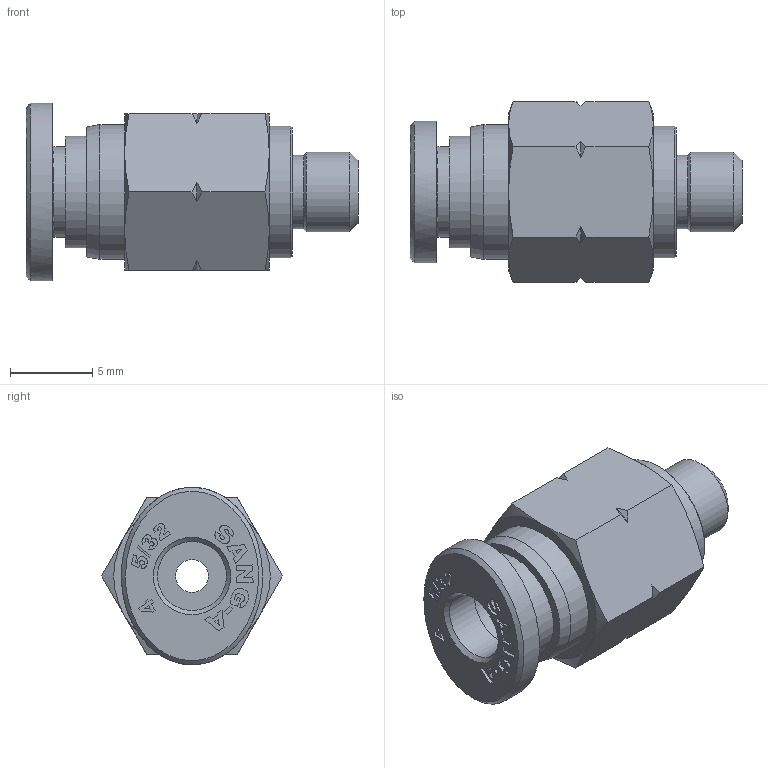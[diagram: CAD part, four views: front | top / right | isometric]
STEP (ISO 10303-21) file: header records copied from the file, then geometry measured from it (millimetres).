
FILE_DESCRIPTION((''),'2;1');
FILE_NAME('C:\Users\user0117\Desktop\김진일\홈페이지\5_32\Internet\GPC 5_32-U10U.stp','2019-09-18T08:09:32',('user0117'),(''),'Autodesk Inventor 2013','Autodesk Inventor 2013','');
FILE_SCHEMA(('AUTOMOTIVE_DESIGN { 1 0 10303 214 1 1 1 1 }'));
Length unit declared in the file: millimetre
Products named in the file (5): GPC 5_32-U10U; GPC BODY 5_32-U10U(BRASS); G-COLLAR 5-32C; COLLAR G04C; SLEEVE G04
Assembly tree (4 placements, depth 3):
  GPC 5_32-U10U
    GPC BODY 5_32-U10U(BRASS)
    G-COLLAR 5-32C
      COLLAR G04C
      SLEEVE G04
Bounding box: 20.2 x 11 x 10.8 mm (x, y, z)
Volume: 899.1 mm3; surface area: 1084.2 mm2
Topology: 3 solids, 3 shells, 210 faces, 535 edges, 351 vertices
Faces by surface type: plane 108, bspline 59, cone 31, cylinder 11, torus 1
Full cylindrical faces by diameter (mm): 2 x1, 4.2 x3, 4.5 x1, 4.826 x1, 5.5 x1, 6.8 x1, 7 x1, 8 x1, 8.2 x1
Entity records: 6797 total; most frequent: CARTESIAN_POINT 2178, ORIENTED_EDGE 1020, DIRECTION 713, EDGE_CURVE 510, VERTEX_POINT 346, VECTOR 297, LINE 297, EDGE_LOOP 256
